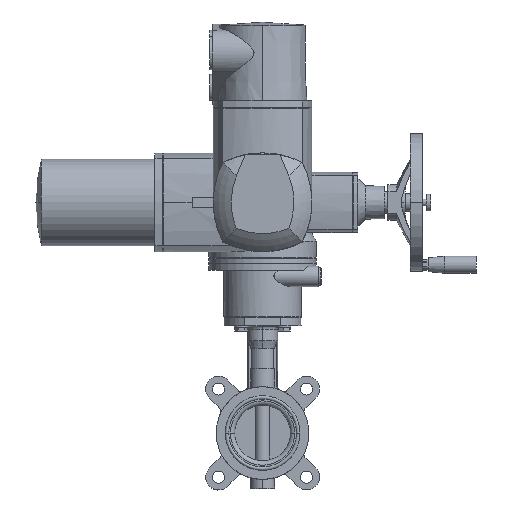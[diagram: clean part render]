
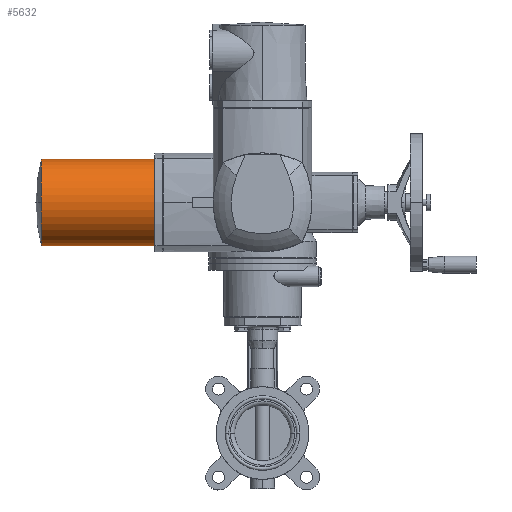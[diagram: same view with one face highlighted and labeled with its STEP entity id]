
A CAD part, top view. The second image highlights one B-rep face of the part: STEP entity #5632.
In plain terms, the highlighted cylindrical face has radius 50.5 mm (diameter 101 mm), a partial arc.
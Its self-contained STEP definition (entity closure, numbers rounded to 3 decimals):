
#254 = DIRECTION ( 'NONE',  ( 1., 0., 0. ) ) ;
#498 = VERTEX_POINT ( 'NONE', #21789 ) ;
#837 = DIRECTION ( 'NONE',  ( 1., 0., 0. ) ) ;
#876 = EDGE_CURVE ( 'NONE', #1701, #24069, #9585, .T. ) ;
#1257 = CARTESIAN_POINT ( 'NONE',  ( -97.021, -40., 83. ) ) ;
#1419 = AXIS2_PLACEMENT_3D ( 'NONE', #21651, #4290, #21235 ) ;
#1701 = VERTEX_POINT ( 'NONE', #16845 ) ;
#2316 = VECTOR ( 'NONE', #837, 1000. ) ;
#4290 = DIRECTION ( 'NONE',  ( 1., 0., 0. ) ) ;
#4382 = CARTESIAN_POINT ( 'NONE',  ( -257.519, -90.5, 133.5 ) ) ;
#4555 = CARTESIAN_POINT ( 'NONE',  ( -125.5, -40., 184. ) ) ;
#4579 = ORIENTED_EDGE ( 'NONE', *, *, #25417, .T. ) ;
#5164 = ORIENTED_EDGE ( 'NONE', *, *, #25057, .F. ) ;
#5632 = ADVANCED_FACE ( 'NONE', ( #10499 ), #27890, .T. ) ;
#6964 = VERTEX_POINT ( 'NONE', #4382 ) ;
#8831 = DIRECTION ( 'NONE',  ( 0., 0., 1. ) ) ;
#9106 = CARTESIAN_POINT ( 'NONE',  ( -257.519, -40., 83. ) ) ;
#9270 = LINE ( 'NONE', #11400, #20276 ) ;
#9585 = CIRCLE ( 'NONE', #18161, 50.5 ) ;
#10499 = FACE_OUTER_BOUND ( 'NONE', #27486, .T. ) ;
#10643 = DIRECTION ( 'NONE',  ( 0., 0., -1. ) ) ;
#11400 = CARTESIAN_POINT ( 'NONE',  ( -97.021, -40., 184. ) ) ;
#11804 = AXIS2_PLACEMENT_3D ( 'NONE', #19872, #27934, #15038 ) ;
#12664 = AXIS2_PLACEMENT_3D ( 'NONE', #19580, #254, #8831 ) ;
#13475 = DIRECTION ( 'NONE',  ( 1., 0., 0. ) ) ;
#13758 = LINE ( 'NONE', #1257, #2316 ) ;
#14578 = DIRECTION ( 'NONE',  ( -1., 0., 0. ) ) ;
#15038 = DIRECTION ( 'NONE',  ( 0., 0., 1. ) ) ;
#15220 = VERTEX_POINT ( 'NONE', #9106 ) ;
#15526 = EDGE_CURVE ( 'NONE', #498, #6964, #19472, .T. ) ;
#16845 = CARTESIAN_POINT ( 'NONE',  ( -125.5, -40., 83. ) ) ;
#16990 = CARTESIAN_POINT ( 'NONE',  ( -125.5, -40., 133.5 ) ) ;
#17633 = CIRCLE ( 'NONE', #12664, 50.5 ) ;
#18161 = AXIS2_PLACEMENT_3D ( 'NONE', #16990, #14578, #10643 ) ;
#19472 = CIRCLE ( 'NONE', #11804, 50.5 ) ;
#19580 = CARTESIAN_POINT ( 'NONE',  ( -257.519, -40., 133.5 ) ) ;
#19872 = CARTESIAN_POINT ( 'NONE',  ( -257.519, -40., 133.5 ) ) ;
#20276 = VECTOR ( 'NONE', #13475, 1000. ) ;
#20784 = ORIENTED_EDGE ( 'NONE', *, *, #876, .T. ) ;
#21235 = DIRECTION ( 'NONE',  ( 0., 0., 1. ) ) ;
#21651 = CARTESIAN_POINT ( 'NONE',  ( -97.021, -40., 133.5 ) ) ;
#21789 = CARTESIAN_POINT ( 'NONE',  ( -257.519, -40., 184. ) ) ;
#24069 = VERTEX_POINT ( 'NONE', #4555 ) ;
#24227 = ORIENTED_EDGE ( 'NONE', *, *, #15526, .T. ) ;
#24543 = ORIENTED_EDGE ( 'NONE', *, *, #25214, .T. ) ;
#25057 = EDGE_CURVE ( 'NONE', #498, #24069, #9270, .T. ) ;
#25214 = EDGE_CURVE ( 'NONE', #15220, #1701, #13758, .T. ) ;
#25417 = EDGE_CURVE ( 'NONE', #6964, #15220, #17633, .T. ) ;
#27486 = EDGE_LOOP ( 'NONE', ( #24227, #4579, #24543, #20784, #5164 ) ) ;
#27890 = CYLINDRICAL_SURFACE ( 'NONE', #1419, 50.5 ) ;
#27934 = DIRECTION ( 'NONE',  ( 1., 0., 0. ) ) ;
